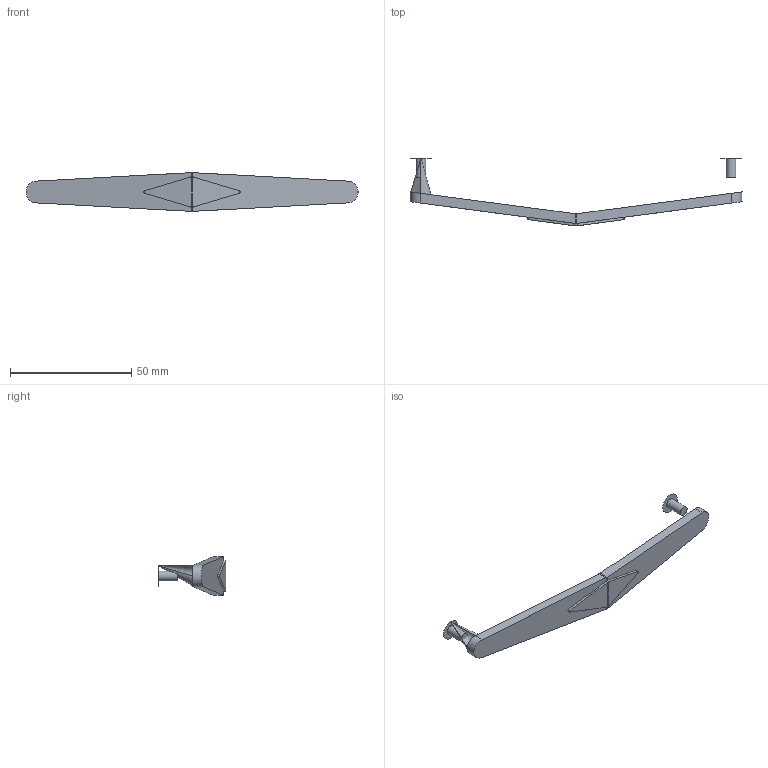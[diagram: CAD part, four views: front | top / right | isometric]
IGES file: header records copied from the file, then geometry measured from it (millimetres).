
Start section: Data from Parasolid IGES Translator 15.0.47, Copyright(c) 2006 Siemens P LM Software. All Rights Reserved.
Global section: file name: 9112632.igs; native system:  By UGS Corp.; preprocessor: XPlus GENERIC/IGES 3.0; author: Noname; organization: Noname; date: 20140122.102458; units: millimetre
Bounding box: 136.97 x 28 x 16 mm (x, y, z)
Surface area: 5581.4 mm2 (no closed solid volume)
Topology: 0 solids, 0 shells, 36 faces, 180 edges, 179 vertices
Faces by surface type: revolution 18, extrusion 18
